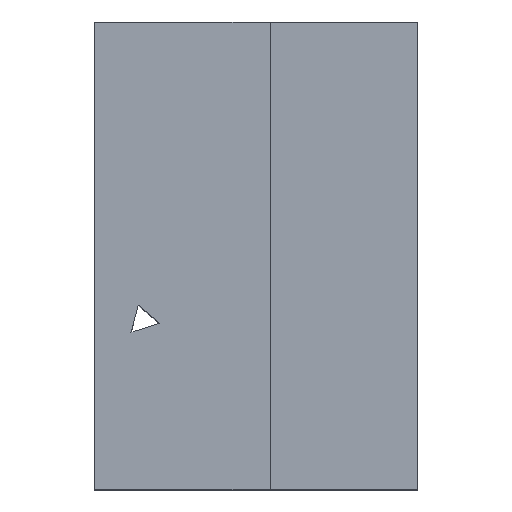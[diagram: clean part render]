
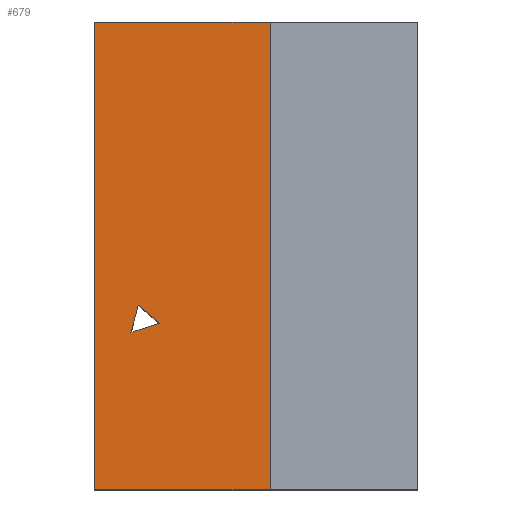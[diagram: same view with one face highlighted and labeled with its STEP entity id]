
A CAD part, top view. The second image highlights one B-rep face of the part: STEP entity #679.
In plain terms, the highlighted planar face has unit normal (0, 0, 1).
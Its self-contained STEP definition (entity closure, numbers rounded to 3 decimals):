
#72 = PLANE('',#73);
#73 = AXIS2_PLACEMENT_3D('',#74,#75,#76);
#74 = CARTESIAN_POINT('',(0.,0.,0.));
#75 = DIRECTION('',(1.,0.,-0.));
#76 = DIRECTION('',(0.,0.,1.));
#294 = EDGE_CURVE('',#295,#297,#299,.T.);
#295 = VERTEX_POINT('',#296);
#296 = CARTESIAN_POINT('',(0.,0.,27.965));
#297 = VERTEX_POINT('',#298);
#298 = CARTESIAN_POINT('',(0.,27.966,27.965));
#299 = SURFACE_CURVE('',#300,(#304,#311),.PCURVE_S1.);
#300 = LINE('',#301,#302);
#301 = CARTESIAN_POINT('',(0.,0.,27.965));
#302 = VECTOR('',#303,1.);
#303 = DIRECTION('',(-0.,1.,0.));
#304 = PCURVE('',#72,#305);
#305 = DEFINITIONAL_REPRESENTATION('',(#306),#310);
#306 = LINE('',#307,#308);
#307 = CARTESIAN_POINT('',(27.965,0.));
#308 = VECTOR('',#309,1.);
#309 = DIRECTION('',(0.,-1.));
#310 = ( GEOMETRIC_REPRESENTATION_CONTEXT(2) 
PARAMETRIC_REPRESENTATION_CONTEXT() REPRESENTATION_CONTEXT('2D SPACE',''
  ) );
#311 = PCURVE('',#312,#317);
#312 = PLANE('',#313);
#313 = AXIS2_PLACEMENT_3D('',#314,#315,#316);
#314 = CARTESIAN_POINT('',(0.,0.,27.965));
#315 = DIRECTION('',(0.,0.,1.));
#316 = DIRECTION('',(1.,0.,-0.));
#317 = DEFINITIONAL_REPRESENTATION('',(#318),#322);
#318 = LINE('',#319,#320);
#319 = CARTESIAN_POINT('',(0.,0.));
#320 = VECTOR('',#321,1.);
#321 = DIRECTION('',(0.,1.));
#322 = ( GEOMETRIC_REPRESENTATION_CONTEXT(2) 
PARAMETRIC_REPRESENTATION_CONTEXT() REPRESENTATION_CONTEXT('2D SPACE',''
  ) );
#340 = PLANE('',#341);
#341 = AXIS2_PLACEMENT_3D('',#342,#343,#344);
#342 = CARTESIAN_POINT('',(0.,0.,0.));
#343 = DIRECTION('',(-0.,1.,0.));
#344 = DIRECTION('',(0.,0.,1.));
#422 = PLANE('',#423);
#423 = AXIS2_PLACEMENT_3D('',#424,#425,#426);
#424 = CARTESIAN_POINT('',(0.,27.966,0.));
#425 = DIRECTION('',(-0.,1.,0.));
#426 = DIRECTION('',(0.,0.,1.));
#679 = ADVANCED_FACE('f007',(#680,#755),#312,.T.);
#680 = FACE_BOUND('',#681,.T.);
#681 = EDGE_LOOP('',(#682,#705,#706,#729));
#682 = ORIENTED_EDGE('',*,*,#683,.F.);
#683 = EDGE_CURVE('',#297,#684,#686,.T.);
#684 = VERTEX_POINT('',#685);
#685 = CARTESIAN_POINT('',(10.529,27.966,
    27.965));
#686 = SURFACE_CURVE('',#687,(#691,#698),.PCURVE_S1.);
#687 = LINE('',#688,#689);
#688 = CARTESIAN_POINT('',(0.,27.966,27.965));
#689 = VECTOR('',#690,1.);
#690 = DIRECTION('',(1.,0.,-0.));
#691 = PCURVE('',#312,#692);
#692 = DEFINITIONAL_REPRESENTATION('',(#693),#697);
#693 = LINE('',#694,#695);
#694 = CARTESIAN_POINT('',(0.,27.966));
#695 = VECTOR('',#696,1.);
#696 = DIRECTION('',(1.,0.));
#697 = ( GEOMETRIC_REPRESENTATION_CONTEXT(2) 
PARAMETRIC_REPRESENTATION_CONTEXT() REPRESENTATION_CONTEXT('2D SPACE',''
  ) );
#698 = PCURVE('',#422,#699);
#699 = DEFINITIONAL_REPRESENTATION('',(#700),#704);
#700 = LINE('',#701,#702);
#701 = CARTESIAN_POINT('',(27.965,0.));
#702 = VECTOR('',#703,1.);
#703 = DIRECTION('',(0.,1.));
#704 = ( GEOMETRIC_REPRESENTATION_CONTEXT(2) 
PARAMETRIC_REPRESENTATION_CONTEXT() REPRESENTATION_CONTEXT('2D SPACE',''
  ) );
#705 = ORIENTED_EDGE('',*,*,#294,.F.);
#706 = ORIENTED_EDGE('',*,*,#707,.T.);
#707 = EDGE_CURVE('',#295,#708,#710,.T.);
#708 = VERTEX_POINT('',#709);
#709 = CARTESIAN_POINT('',(10.529,0.,27.965));
#710 = SURFACE_CURVE('',#711,(#715,#722),.PCURVE_S1.);
#711 = LINE('',#712,#713);
#712 = CARTESIAN_POINT('',(0.,0.,27.965));
#713 = VECTOR('',#714,1.);
#714 = DIRECTION('',(1.,0.,-0.));
#715 = PCURVE('',#312,#716);
#716 = DEFINITIONAL_REPRESENTATION('',(#717),#721);
#717 = LINE('',#718,#719);
#718 = CARTESIAN_POINT('',(0.,0.));
#719 = VECTOR('',#720,1.);
#720 = DIRECTION('',(1.,0.));
#721 = ( GEOMETRIC_REPRESENTATION_CONTEXT(2) 
PARAMETRIC_REPRESENTATION_CONTEXT() REPRESENTATION_CONTEXT('2D SPACE',''
  ) );
#722 = PCURVE('',#340,#723);
#723 = DEFINITIONAL_REPRESENTATION('',(#724),#728);
#724 = LINE('',#725,#726);
#725 = CARTESIAN_POINT('',(27.965,0.));
#726 = VECTOR('',#727,1.);
#727 = DIRECTION('',(0.,1.));
#728 = ( GEOMETRIC_REPRESENTATION_CONTEXT(2) 
PARAMETRIC_REPRESENTATION_CONTEXT() REPRESENTATION_CONTEXT('2D SPACE',''
  ) );
#729 = ORIENTED_EDGE('',*,*,#730,.F.);
#730 = EDGE_CURVE('',#684,#708,#731,.T.);
#731 = SURFACE_CURVE('',#732,(#736,#743),.PCURVE_S1.);
#732 = LINE('',#733,#734);
#733 = CARTESIAN_POINT('',(10.529,27.966,
    27.965));
#734 = VECTOR('',#735,1.);
#735 = DIRECTION('',(0.,-1.,0.));
#736 = PCURVE('',#312,#737);
#737 = DEFINITIONAL_REPRESENTATION('',(#738),#742);
#738 = LINE('',#739,#740);
#739 = CARTESIAN_POINT('',(10.529,27.966));
#740 = VECTOR('',#741,1.);
#741 = DIRECTION('',(0.,-1.));
#742 = ( GEOMETRIC_REPRESENTATION_CONTEXT(2) 
PARAMETRIC_REPRESENTATION_CONTEXT() REPRESENTATION_CONTEXT('2D SPACE',''
  ) );
#743 = PCURVE('',#744,#749);
#744 = PLANE('',#745);
#745 = AXIS2_PLACEMENT_3D('',#746,#747,#748);
#746 = CARTESIAN_POINT('',(10.529,27.966,
    27.965));
#747 = DIRECTION('',(-1.,0.,0.));
#748 = DIRECTION('',(0.,-1.,0.));
#749 = DEFINITIONAL_REPRESENTATION('',(#750),#754);
#750 = LINE('',#751,#752);
#751 = CARTESIAN_POINT('',(0.,0.));
#752 = VECTOR('',#753,1.);
#753 = DIRECTION('',(1.,0.));
#754 = ( GEOMETRIC_REPRESENTATION_CONTEXT(2) 
PARAMETRIC_REPRESENTATION_CONTEXT() REPRESENTATION_CONTEXT('2D SPACE',''
  ) );
#755 = FACE_BOUND('',#756,.T.);
#756 = EDGE_LOOP('',(#757,#785,#811));
#757 = ORIENTED_EDGE('',*,*,#758,.F.);
#758 = EDGE_CURVE('',#759,#761,#763,.T.);
#759 = VERTEX_POINT('',#760);
#760 = CARTESIAN_POINT('',(3.92,9.938,27.965)
  );
#761 = VERTEX_POINT('',#762);
#762 = CARTESIAN_POINT('',(2.629,11.025,
    27.965));
#763 = SURFACE_CURVE('',#764,(#768,#774),.PCURVE_S1.);
#764 = LINE('',#765,#766);
#765 = CARTESIAN_POINT('',(4.575,9.387,27.965
    ));
#766 = VECTOR('',#767,1.);
#767 = DIRECTION('',(-0.765,0.644,0.));
#768 = PCURVE('',#312,#769);
#769 = DEFINITIONAL_REPRESENTATION('',(#770),#773);
#770 = B_SPLINE_CURVE_WITH_KNOTS('',1,(#771,#772),.UNSPECIFIED.,.F.,.F.,
  (2,2),(0.857,2.544),.PIECEWISE_BEZIER_KNOTS.);
#771 = CARTESIAN_POINT('',(3.92,9.938));
#772 = CARTESIAN_POINT('',(2.629,11.025));
#773 = ( GEOMETRIC_REPRESENTATION_CONTEXT(2) 
PARAMETRIC_REPRESENTATION_CONTEXT() REPRESENTATION_CONTEXT('2D SPACE',''
  ) );
#774 = PCURVE('',#775,#780);
#775 = PLANE('',#776);
#776 = AXIS2_PLACEMENT_3D('',#777,#778,#779);
#777 = CARTESIAN_POINT('',(2.629,11.025,0.));
#778 = DIRECTION('',(0.644,0.765,-0.));
#779 = DIRECTION('',(0.765,-0.644,0.));
#780 = DEFINITIONAL_REPRESENTATION('',(#781),#784);
#781 = B_SPLINE_CURVE_WITH_KNOTS('',1,(#782,#783),.UNSPECIFIED.,.F.,.F.,
  (2,2),(0.857,2.544),.PIECEWISE_BEZIER_KNOTS.);
#782 = CARTESIAN_POINT('',(1.687,-27.965));
#783 = CARTESIAN_POINT('',(0.,-27.965));
#784 = ( GEOMETRIC_REPRESENTATION_CONTEXT(2) 
PARAMETRIC_REPRESENTATION_CONTEXT() REPRESENTATION_CONTEXT('2D SPACE',''
  ) );
#785 = ORIENTED_EDGE('',*,*,#786,.F.);
#786 = EDGE_CURVE('',#787,#759,#789,.T.);
#787 = VERTEX_POINT('',#788);
#788 = CARTESIAN_POINT('',(2.194,9.392,27.965
    ));
#789 = SURFACE_CURVE('',#790,(#794,#800),.PCURVE_S1.);
#790 = LINE('',#791,#792);
#791 = CARTESIAN_POINT('',(0.708,8.921,27.965
    ));
#792 = VECTOR('',#793,1.);
#793 = DIRECTION('',(0.953,0.302,-0.));
#794 = PCURVE('',#312,#795);
#795 = DEFINITIONAL_REPRESENTATION('',(#796),#799);
#796 = B_SPLINE_CURVE_WITH_KNOTS('',1,(#797,#798),.UNSPECIFIED.,.F.,.F.,
  (2,2),(1.559,3.369),.PIECEWISE_BEZIER_KNOTS.);
#797 = CARTESIAN_POINT('',(2.194,9.392));
#798 = CARTESIAN_POINT('',(3.92,9.938));
#799 = ( GEOMETRIC_REPRESENTATION_CONTEXT(2) 
PARAMETRIC_REPRESENTATION_CONTEXT() REPRESENTATION_CONTEXT('2D SPACE',''
  ) );
#800 = PCURVE('',#801,#806);
#801 = PLANE('',#802);
#802 = AXIS2_PLACEMENT_3D('',#803,#804,#805);
#803 = CARTESIAN_POINT('',(3.92,9.938,0.));
#804 = DIRECTION('',(0.302,-0.953,0.));
#805 = DIRECTION('',(-0.953,-0.302,0.));
#806 = DEFINITIONAL_REPRESENTATION('',(#807),#810);
#807 = B_SPLINE_CURVE_WITH_KNOTS('',1,(#808,#809),.UNSPECIFIED.,.F.,.F.,
  (2,2),(1.559,3.369),.PIECEWISE_BEZIER_KNOTS.);
#808 = CARTESIAN_POINT('',(1.81,-27.965));
#809 = CARTESIAN_POINT('',(0.,-27.965));
#810 = ( GEOMETRIC_REPRESENTATION_CONTEXT(2) 
PARAMETRIC_REPRESENTATION_CONTEXT() REPRESENTATION_CONTEXT('2D SPACE',''
  ) );
#811 = ORIENTED_EDGE('',*,*,#812,.F.);
#812 = EDGE_CURVE('',#761,#787,#813,.T.);
#813 = SURFACE_CURVE('',#814,(#818,#824),.PCURVE_S1.);
#814 = LINE('',#815,#816);
#815 = CARTESIAN_POINT('',(0.954,4.734,27.965
    ));
#816 = VECTOR('',#817,1.);
#817 = DIRECTION('',(-0.257,-0.966,0.));
#818 = PCURVE('',#312,#819);
#819 = DEFINITIONAL_REPRESENTATION('',(#820),#823);
#820 = B_SPLINE_CURVE_WITH_KNOTS('',1,(#821,#822),.UNSPECIFIED.,.F.,.F.,
  (2,2),(-6.51,-4.82),.PIECEWISE_BEZIER_KNOTS.);
#821 = CARTESIAN_POINT('',(2.629,11.025));
#822 = CARTESIAN_POINT('',(2.194,9.392));
#823 = ( GEOMETRIC_REPRESENTATION_CONTEXT(2) 
PARAMETRIC_REPRESENTATION_CONTEXT() REPRESENTATION_CONTEXT('2D SPACE',''
  ) );
#824 = PCURVE('',#825,#830);
#825 = PLANE('',#826);
#826 = AXIS2_PLACEMENT_3D('',#827,#828,#829);
#827 = CARTESIAN_POINT('',(2.194,9.392,0.));
#828 = DIRECTION('',(-0.966,0.257,0.));
#829 = DIRECTION('',(0.257,0.966,0.));
#830 = DEFINITIONAL_REPRESENTATION('',(#831),#834);
#831 = B_SPLINE_CURVE_WITH_KNOTS('',1,(#832,#833),.UNSPECIFIED.,.F.,.F.,
  (2,2),(-6.51,-4.82),.PIECEWISE_BEZIER_KNOTS.);
#832 = CARTESIAN_POINT('',(1.69,-27.965));
#833 = CARTESIAN_POINT('',(0.,-27.965));
#834 = ( GEOMETRIC_REPRESENTATION_CONTEXT(2) 
PARAMETRIC_REPRESENTATION_CONTEXT() REPRESENTATION_CONTEXT('2D SPACE',''
  ) );
